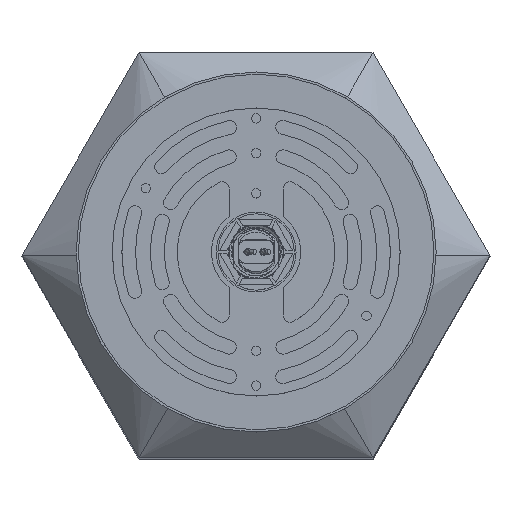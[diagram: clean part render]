
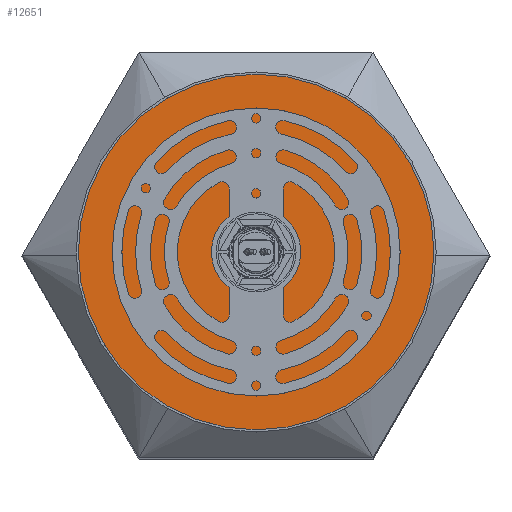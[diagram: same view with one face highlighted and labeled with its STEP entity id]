
A CAD part, top view. The second image highlights one B-rep face of the part: STEP entity #12651.
In plain terms, the highlighted planar face has unit normal (0, 0, 1).
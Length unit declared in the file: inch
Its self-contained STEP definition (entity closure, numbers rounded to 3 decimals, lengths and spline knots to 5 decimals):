
#2979=FACE_BOUND('',#4342,.T.);
#3519=FACE_OUTER_BOUND('',#4341,.T.);
#4341=EDGE_LOOP('',(#10253));
#4342=EDGE_LOOP('',(#10254));
#4872=CIRCLE('',#13596,0.45);
#4874=CIRCLE('',#13599,2.47);
#5775=VERTEX_POINT('',#22075);
#5777=VERTEX_POINT('',#22081);
#7348=EDGE_CURVE('',#5775,#5775,#4872,.T.);
#7351=EDGE_CURVE('',#5777,#5777,#4874,.F.);
#10253=ORIENTED_EDGE('',*,*,#7351,.T.);
#10254=ORIENTED_EDGE('',*,*,#7348,.T.);
#12098=PLANE('',#13601);
#12651=ADVANCED_FACE('',(#3519,#2979),#12098,.T.);
#13596=AXIS2_PLACEMENT_3D('',#22076,#16049,#16050);
#13599=AXIS2_PLACEMENT_3D('',#22082,#16056,#16057);
#13601=AXIS2_PLACEMENT_3D('',#22086,#16061,#16062);
#16049=DIRECTION('center_axis',(0.,0.,-1.));
#16050=DIRECTION('ref_axis',(1.,0.,0.));
#16056=DIRECTION('center_axis',(0.,0.,-1.));
#16057=DIRECTION('ref_axis',(1.,0.,0.));
#16061=DIRECTION('center_axis',(0.,0.,1.));
#16062=DIRECTION('ref_axis',(1.,0.,0.));
#22075=CARTESIAN_POINT('',(-0.45,0.,44.99));
#22076=CARTESIAN_POINT('Origin',(0.,0.,44.99));
#22081=CARTESIAN_POINT('',(-2.47,0.,44.99));
#22082=CARTESIAN_POINT('Origin',(0.,0.,44.99));
#22086=CARTESIAN_POINT('Origin',(0.,0.,44.99));
